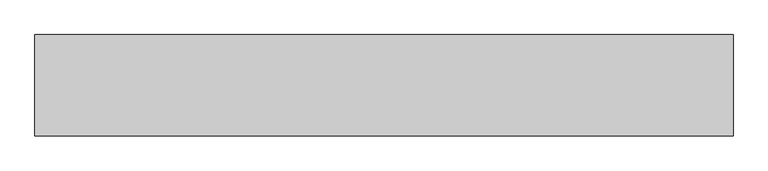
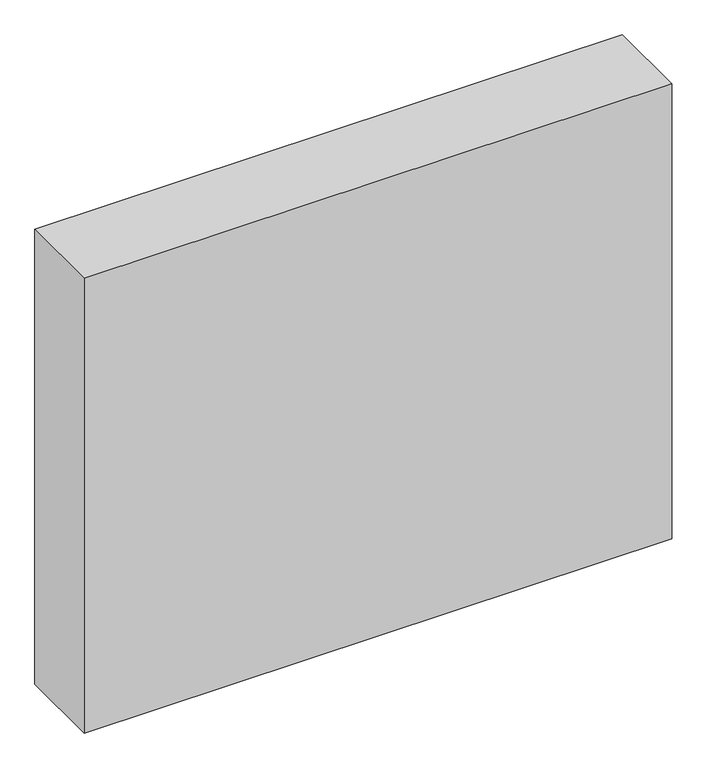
"""IFC4 building model written with IfcOpenShell, lengths in millimetres: proxy geometry."""

from ifc_helpers import new_model, si_unit, frame, origin, place, context, project, spatial, polyline, outline, extrude, source, transform, mapped, element, save


def generic_models_c7ce942b(model_context):
    return source(origin(), model_context, "Body", "SweptSolid", [
        extrude(outline(polyline([(25348.9542707, 80.0), (26448.9542707, 80.0), (26448.9542707, -80.0), (25348.9542707, -80.0), (25348.9542707, 80.0)])), frame((0.0, 0.0, 1751.3716536), z_axis=(0.0, 0.0, 1.0), x_axis=(1.0, 0.0, 0.0)), (0.0, 0.0, 1.0), 900.0),
    ])


if __name__ == "__main__":
    model = new_model("IFC4")
    model_context = context("Model", 3, world=origin())
    ifc_project = project(units=[si_unit("LENGTHUNIT", "METRE", prefix="MILLI")], contexts=[model_context])
    site = spatial("IfcSite", under=ifc_project)
    building = spatial("IfcBuilding", under=site)
    placement = place(None, origin())
    generic_models_shape = generic_models_c7ce942b(model_context)
    element("IfcBuildingElementProxy", 1, Name="Generic Models", at=placement, inside=building, context=model_context, shape_type="MappedRepresentation", body=[
        mapped(generic_models_shape, transform((0.0, 0.0, 0.0), x_axis=(1.0, 0.0, 0.0), y_axis=(0.0, 1.0, 0.0), z_axis=(0.0, 0.0, 1.0))),
    ])
    save(model, "model.ifc")
